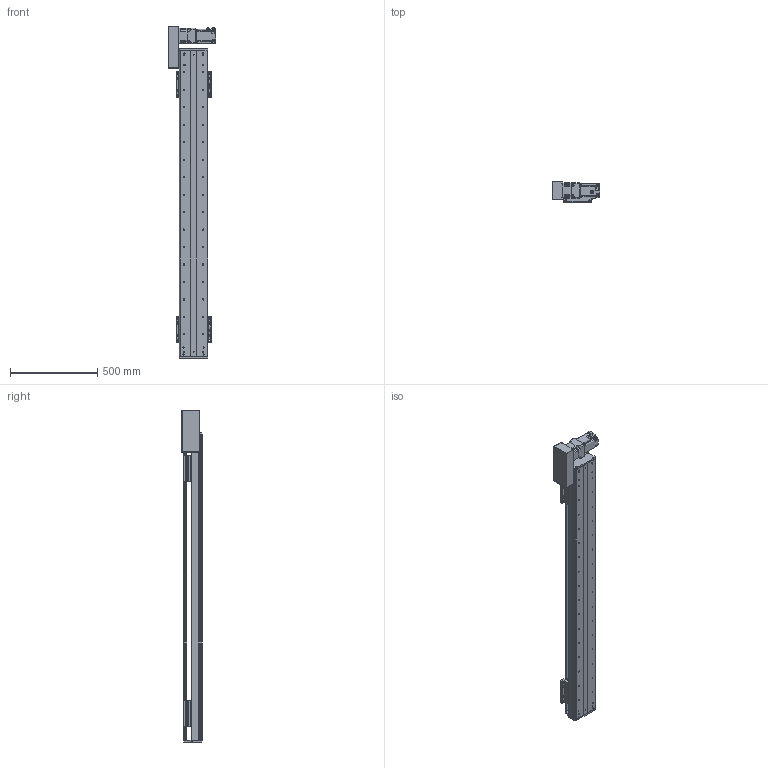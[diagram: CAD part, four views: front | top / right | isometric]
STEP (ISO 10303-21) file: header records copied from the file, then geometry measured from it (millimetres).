
FILE_DESCRIPTION(/* description */ (''),/* implementation_level */ '2;1');
FILE_NAME(/* name */ 'C:\Users\PC\Desktop\3D도면\STEP\DSB165-L7G-W1400-R.stp',/* time_stamp */ '2018-06-25T14:34:28+09:00',/* author */ ('PC'),/* organization */ (''),/* preprocessor_version */ 'ST-DEVELOPER v16.5',/* originating_system */ 'Autodesk Inventor 2017',/* authorisation */ '');
FILE_SCHEMA (('AUTOMOTIVE_DESIGN { 1 0 10303 214 3 1 1 }'));
Length unit declared in the file: millimetre
Products named in the file (12): DSB165-L; DSR165-BASE_S; hg-kr73_; ab0901-p0401300102; 11-DBS165 BELT COVER; DBS165-COVER; DBS165-COVER_1; DBS165-UP COVER; DBS165-TABLE(MSA20S); DSR126-SENSOR DOG; pm-y65_step; SENSOR BRACKET(EE-SX674A)
Assembly tree (16 placements, depth 2):
  DSB165-L
    DSR165-BASE_S
    hg-kr73_
    ab0901-p0401300102
    11-DBS165 BELT COVER
    DBS165-COVER
    DBS165-COVER_1
    DBS165-UP COVER
    DBS165-TABLE(MSA20S)  x2
    DSR126-SENSOR DOG
    pm-y65_step  x3
    SENSOR BRACKET(EE-SX674A)  x3
Bounding box: 270 x 115 x 1900 mm (x, y, z)
Volume: 10695444.3 mm3; surface area: 2488575.8 mm2
Topology: 17 solids, 22 shells, 1695 faces, 4545 edges, 2994 vertices
Faces by surface type: plane 926, cylinder 633, cone 124, sphere 8, torus 4
Full cylindrical faces by diameter (mm): 2.459 x20, 3.5 x6, 4.134 x42, 4.5 x18, 5 x27, 5.5 x36, 5.9 x4, 6 x8, 6.6 x14, 6.647 x52, 6.8 x1, 7 x4, 7.6 x4, 8 x1, 8.4 x1, 8.5 x24, 8.7 x1, 9.5 x32, 11 x6, 14 x16, 19 x1, 22 x1, 24 x1, 25 x1, 28 x1, 67 x1, 70 x2, 80 x1
Entity records: 36029 total; most frequent: DIRECTION 6380, CARTESIAN_POINT 6163, ORIENTED_EDGE 5590, EDGE_CURVE 2800, AXIS2_PLACEMENT_3D 2360, VERTEX_POINT 2005, EDGE_LOOP 1787, LINE 1660
